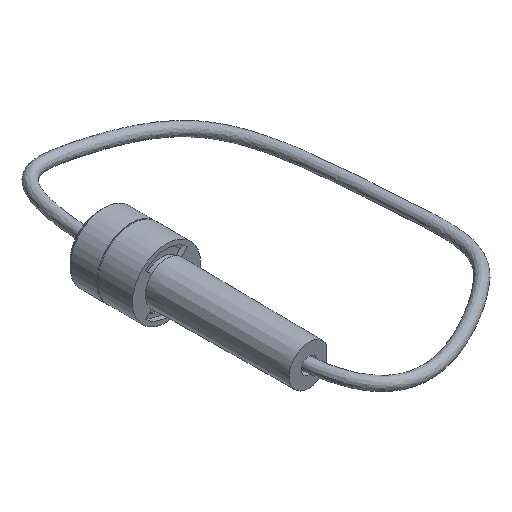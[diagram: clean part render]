
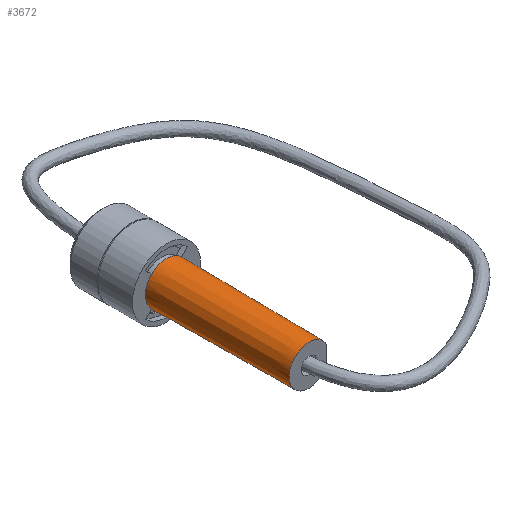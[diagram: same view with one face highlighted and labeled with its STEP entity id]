
A CAD part, isometric view. The second image highlights one B-rep face of the part: STEP entity #3672.
In plain terms, the highlighted conical face has half-angle 0.5 degrees and reference radius 5.461 mm.
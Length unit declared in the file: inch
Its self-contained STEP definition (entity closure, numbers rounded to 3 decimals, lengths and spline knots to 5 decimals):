
#46=CONICAL_SURFACE('',#3924,0.215,0.009);
#56=(
BOUNDED_CURVE()
B_SPLINE_CURVE(2,(#5301,#5302,#5303),.UNSPECIFIED.,.F.,.F.)
B_SPLINE_CURVE_WITH_KNOTS((3,3),(2.71954,2.76051),
 .UNSPECIFIED.)
CURVE()
GEOMETRIC_REPRESENTATION_ITEM()
RATIONAL_B_SPLINE_CURVE((1.001,1.001,1.001))
REPRESENTATION_ITEM('')
);
#57=(
BOUNDED_CURVE()
B_SPLINE_CURVE(2,(#6650,#6651,#6652),.UNSPECIFIED.,.F.,.F.)
B_SPLINE_CURVE_WITH_KNOTS((3,3),(0.,2.71954),.UNSPECIFIED.)
CURVE()
GEOMETRIC_REPRESENTATION_ITEM()
RATIONAL_B_SPLINE_CURVE((1.,1.001,1.001))
REPRESENTATION_ITEM('')
);
#58=(
BOUNDED_CURVE()
B_SPLINE_CURVE(2,(#6656,#6657,#6658),.UNSPECIFIED.,.F.,.F.)
B_SPLINE_CURVE_WITH_KNOTS((3,3),(0.,3.65815),.UNSPECIFIED.)
CURVE()
GEOMETRIC_REPRESENTATION_ITEM()
RATIONAL_B_SPLINE_CURVE((1.,1.002,1.))
REPRESENTATION_ITEM('')
);
#59=(
BOUNDED_CURVE()
B_SPLINE_CURVE(2,(#6661,#6662,#6663),.UNSPECIFIED.,.F.,.F.)
B_SPLINE_CURVE_WITH_KNOTS((3,3),(2.76051,3.65815),
 .UNSPECIFIED.)
CURVE()
GEOMETRIC_REPRESENTATION_ITEM()
RATIONAL_B_SPLINE_CURVE((1.001,1.,1.))
REPRESENTATION_ITEM('')
);
#561=FACE_OUTER_BOUND('',#781,.T.);
#781=EDGE_LOOP('',(#3199,#3200,#3201,#3202,#3203,#3204,#3205,#3206,#3207,
#3208));
#1495=CIRCLE('',#3923,0.20243);
#1496=CIRCLE('',#3925,0.215);
#1497=CIRCLE('',#3926,0.215);
#1498=CIRCLE('',#3927,0.215);
#1499=CIRCLE('',#3928,0.215);
#1500=CIRCLE('',#3929,0.215);
#1613=VERTEX_POINT('',#5287);
#1614=VERTEX_POINT('',#5294);
#1805=VERTEX_POINT('',#6649);
#1806=VERTEX_POINT('',#6653);
#1807=VERTEX_POINT('',#6655);
#1808=VERTEX_POINT('',#6659);
#1809=VERTEX_POINT('',#6669);
#1810=VERTEX_POINT('',#6671);
#1811=VERTEX_POINT('',#6673);
#1812=VERTEX_POINT('',#6675);
#1989=EDGE_CURVE('',#1613,#1614,#56,.T.);
#2282=EDGE_CURVE('',#1805,#1613,#57,.T.);
#2284=EDGE_CURVE('',#1807,#1806,#58,.T.);
#2286=EDGE_CURVE('',#1614,#1808,#59,.T.);
#2287=EDGE_CURVE('',#1808,#1807,#1495,.T.);
#2288=EDGE_CURVE('',#1806,#1809,#1496,.T.);
#2289=EDGE_CURVE('',#1809,#1810,#1497,.T.);
#2290=EDGE_CURVE('',#1810,#1811,#1498,.T.);
#2291=EDGE_CURVE('',#1811,#1812,#1499,.T.);
#2292=EDGE_CURVE('',#1812,#1805,#1500,.T.);
#3199=ORIENTED_EDGE('',*,*,#2282,.T.);
#3200=ORIENTED_EDGE('',*,*,#1989,.T.);
#3201=ORIENTED_EDGE('',*,*,#2286,.T.);
#3202=ORIENTED_EDGE('',*,*,#2287,.T.);
#3203=ORIENTED_EDGE('',*,*,#2284,.T.);
#3204=ORIENTED_EDGE('',*,*,#2288,.T.);
#3205=ORIENTED_EDGE('',*,*,#2289,.T.);
#3206=ORIENTED_EDGE('',*,*,#2290,.T.);
#3207=ORIENTED_EDGE('',*,*,#2291,.T.);
#3208=ORIENTED_EDGE('',*,*,#2292,.T.);
#3672=ADVANCED_FACE('',(#561),#46,.T.);
#3923=AXIS2_PLACEMENT_3D('',#6667,#4447,#4448);
#3924=AXIS2_PLACEMENT_3D('',#6668,#4449,#4450);
#3925=AXIS2_PLACEMENT_3D('',#6670,#4451,#4452);
#3926=AXIS2_PLACEMENT_3D('',#6672,#4453,#4454);
#3927=AXIS2_PLACEMENT_3D('',#6674,#4455,#4456);
#3928=AXIS2_PLACEMENT_3D('',#6676,#4457,#4458);
#3929=AXIS2_PLACEMENT_3D('',#6677,#4459,#4460);
#4447=DIRECTION('center_axis',(0.,1.,0.));
#4448=DIRECTION('ref_axis',(1.,0.,0.));
#4449=DIRECTION('center_axis',(0.,1.,0.));
#4450=DIRECTION('ref_axis',(-1.,0.,0.));
#4451=DIRECTION('center_axis',(0.,-1.,0.));
#4452=DIRECTION('ref_axis',(1.,0.,0.));
#4453=DIRECTION('center_axis',(0.,-1.,0.));
#4454=DIRECTION('ref_axis',(1.,0.,0.));
#4455=DIRECTION('center_axis',(0.,-1.,0.));
#4456=DIRECTION('ref_axis',(1.,0.,0.));
#4457=DIRECTION('center_axis',(0.,-1.,0.));
#4458=DIRECTION('ref_axis',(1.,0.,0.));
#4459=DIRECTION('center_axis',(0.,-1.,0.));
#4460=DIRECTION('ref_axis',(1.,0.,0.));
#5287=CARTESIAN_POINT('',(0.18,-1.10293,-0.09889));
#5294=CARTESIAN_POINT('',(0.18,-1.1181,-0.09861));
#5301=CARTESIAN_POINT('Ctrl Pts',(0.18,-1.10293,-0.09889));
#5302=CARTESIAN_POINT('Ctrl Pts',(0.18,-1.11053,-0.09875));
#5303=CARTESIAN_POINT('Ctrl Pts',(0.18,-1.1181,-0.09861));
#6649=CARTESIAN_POINT('',(0.18,0.,-0.11758));
#6650=CARTESIAN_POINT('Ctrl Pts',(0.18,0.,-0.11758));
#6651=CARTESIAN_POINT('Ctrl Pts',(0.18,-0.59908,-0.10802));
#6652=CARTESIAN_POINT('Ctrl Pts',(0.18,-1.10293,-0.09889));
#6653=CARTESIAN_POINT('',(0.18,0.,0.11758));
#6655=CARTESIAN_POINT('',(0.18,-1.44,0.09262));
#6656=CARTESIAN_POINT('Ctrl Pts',(0.18,-1.44,0.09262));
#6657=CARTESIAN_POINT('Ctrl Pts',(0.18,-0.80548,0.10473));
#6658=CARTESIAN_POINT('Ctrl Pts',(0.18,0.,0.11758));
#6659=CARTESIAN_POINT('',(0.18,-1.44,-0.09262));
#6661=CARTESIAN_POINT('Ctrl Pts',(0.18,-1.1181,-0.09861));
#6662=CARTESIAN_POINT('Ctrl Pts',(0.18,-1.28409,-0.0956));
#6663=CARTESIAN_POINT('Ctrl Pts',(0.18,-1.44,-0.09262));
#6667=CARTESIAN_POINT('Origin',(0.,-1.44,0.));
#6668=CARTESIAN_POINT('Origin',(0.,0.,0.));
#6669=CARTESIAN_POINT('',(0.15203,0.,0.15203));
#6670=CARTESIAN_POINT('Origin',(0.,0.,0.));
#6671=CARTESIAN_POINT('',(-0.15203,0.,0.15203));
#6672=CARTESIAN_POINT('Origin',(0.,0.,0.));
#6673=CARTESIAN_POINT('',(-0.15203,0.,-0.15203));
#6674=CARTESIAN_POINT('Origin',(0.,0.,0.));
#6675=CARTESIAN_POINT('',(0.15203,0.,-0.15203));
#6676=CARTESIAN_POINT('Origin',(0.,0.,0.));
#6677=CARTESIAN_POINT('Origin',(0.,0.,0.));
